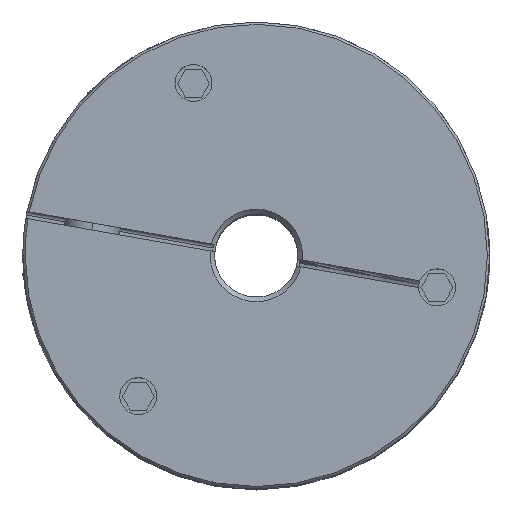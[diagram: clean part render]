
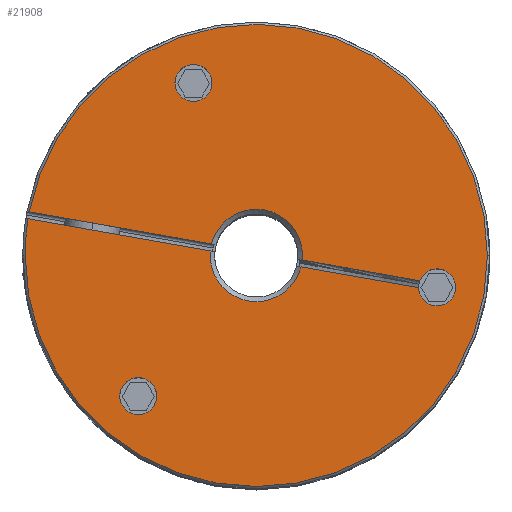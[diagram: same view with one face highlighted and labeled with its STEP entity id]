
A CAD part, top view. The second image highlights one B-rep face of the part: STEP entity #21908.
In plain terms, the highlighted planar face has unit normal (0, 0, 1).
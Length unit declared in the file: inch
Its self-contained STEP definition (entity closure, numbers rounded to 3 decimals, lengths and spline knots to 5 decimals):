
#4773=CARTESIAN_POINT('',(0.38099,-0.09766,
5.27605));
#4800=DIRECTION('',(-0.985,0.174,0.));
#4801=VECTOR('',#4800,1.01668);
#4802=CARTESIAN_POINT('',(1.38222,-0.27424,
5.27605));
#4803=LINE('',#4802,#4801);
#4807=CARTESIAN_POINT('',(-0.39141,0.03857,
5.27605));
#4816=DIRECTION('',(-0.985,0.174,0.));
#4817=VECTOR('',#4816,1.5758);
#4818=CARTESIAN_POINT('',(-0.39141,0.03857,
5.27605));
#4819=LINE('',#4818,#4817);
#4983=CARTESIAN_POINT('',(-0.38099,0.09766,
5.27605));
#5003=DIRECTION('',(0.985,-0.174,0.));
#5004=VECTOR('',#5003,1.5758);
#5005=CARTESIAN_POINT('',(-1.93285,0.37131,
5.27605));
#5006=LINE('',#5005,#5004);
#5010=CARTESIAN_POINT('',(0.39141,-0.03857,
5.27605));
#5019=DIRECTION('',(0.985,-0.174,0.));
#5020=VECTOR('',#5019,1.01667);
#5021=CARTESIAN_POINT('',(0.39141,-0.03857,
5.27605));
#5022=LINE('',#5021,#5020);
#5056=CARTESIAN_POINT('',(0.,0.,
5.27605));
#5057=DIRECTION('',(0.,0.,-1.));
#5058=DIRECTION('',(-0.969,0.248,0.));
#5059=AXIS2_PLACEMENT_3D('',#5056,#5057,#5058);
#5088=CARTESIAN_POINT('',(0.,0.,
5.27605));
#5089=DIRECTION('',(0.,0.,-1.));
#5090=DIRECTION('',(0.969,-0.248,0.));
#5091=AXIS2_PLACEMENT_3D('',#5088,#5089,#5090);
#5096=CARTESIAN_POINT('',(-1.00498,-1.19764,
5.27605));
#5097=DIRECTION('',(0.,0.,-1.));
#5098=DIRECTION('',(-0.174,-0.985,0.));
#5099=AXIS2_PLACEMENT_3D('',#5096,#5097,#5098);
#5104=CARTESIAN_POINT('',(-1.00498,-1.19764,
5.27605));
#5105=DIRECTION('',(0.,0.,1.));
#5106=DIRECTION('',(-0.174,-0.985,0.));
#5107=AXIS2_PLACEMENT_3D('',#5104,#5105,#5106);
#5112=CARTESIAN_POINT('',(-1.00498,-1.19764,
5.27605));
#5113=DIRECTION('',(0.,0.,-1.));
#5114=DIRECTION('',(-1.,0.,0.));
#5115=AXIS2_PLACEMENT_3D('',#5112,#5113,#5114);
#5120=CARTESIAN_POINT('',(-0.5347,1.46916,
5.27605));
#5121=DIRECTION('',(0.,0.,-1.));
#5122=DIRECTION('',(-0.174,-0.985,0.));
#5123=AXIS2_PLACEMENT_3D('',#5120,#5121,#5122);
#5128=CARTESIAN_POINT('',(-0.5347,1.46916,
5.27605));
#5129=DIRECTION('',(0.,0.,1.));
#5130=DIRECTION('',(-0.174,-0.985,0.));
#5131=AXIS2_PLACEMENT_3D('',#5128,#5129,#5130);
#5136=CARTESIAN_POINT('',(-0.5347,1.46916,
5.27605));
#5137=DIRECTION('',(0.,0.,-1.));
#5138=DIRECTION('',(-1.,0.,0.));
#5139=AXIS2_PLACEMENT_3D('',#5136,#5137,#5138);
#5144=CARTESIAN_POINT('',(0.,0.,5.27605));
#5145=DIRECTION('',(0.,0.,1.));
#5146=DIRECTION('',(1.,0.,0.));
#5147=AXIS2_PLACEMENT_3D('',#5144,#5145,#5146);
#5152=CARTESIAN_POINT('',(0.,0.,5.27605));
#5153=DIRECTION('',(0.,0.,1.));
#5154=DIRECTION('',(-1.,0.,0.));
#5155=AXIS2_PLACEMENT_3D('',#5152,#5153,#5154);
#5160=CARTESIAN_POINT('',(0.,0.,5.27605));
#5161=DIRECTION('',(0.,0.,1.));
#5162=DIRECTION('',(-0.987,0.159,0.));
#5163=AXIS2_PLACEMENT_3D('',#5160,#5161,#5162);
#5168=CARTESIAN_POINT('',(1.53968,-0.27152,
5.27605));
#5169=DIRECTION('',(0.,0.,-1.));
#5170=DIRECTION('',(-0.174,-0.985,0.));
#5171=AXIS2_PLACEMENT_3D('',#5168,#5169,#5170);
#5176=CARTESIAN_POINT('',(1.53968,-0.27152,
5.27605));
#5177=DIRECTION('',(0.,0.,-1.));
#5178=DIRECTION('',(1.,0.,0.));
#5179=AXIS2_PLACEMENT_3D('',#5176,#5177,#5178);
#5184=CARTESIAN_POINT('',(1.53968,-0.27152,
5.27605));
#5185=DIRECTION('',(0.,0.,-1.));
#5186=DIRECTION('',(0.174,0.985,0.));
#5187=AXIS2_PLACEMENT_3D('',#5184,#5185,#5186);
#5192=CARTESIAN_POINT('',(1.53968,-0.27152,
5.27605));
#5193=DIRECTION('',(0.,0.,-1.));
#5194=DIRECTION('',(-0.934,0.358,0.));
#5195=AXIS2_PLACEMENT_3D('',#5192,#5193,#5194);
#15796=CARTESIAN_POINT('',(-1.03233,-1.35273,
5.27605));
#15798=VERTEX_POINT('',#15796);
#16456=CARTESIAN_POINT('',(-1.96819,0.,5.27605));
#16457=CARTESIAN_POINT('',(1.96819,0.,5.27605));
#16458=VERTEX_POINT('',#16456);
#16459=VERTEX_POINT('',#16457);
#16817=CARTESIAN_POINT('',(1.69716,-0.27152,
5.27605));
#16818=VERTEX_POINT('',#16817);
#16900=CARTESIAN_POINT('',(1.38222,-0.27424,
5.27605));
#16902=VERTEX_POINT('',#16900);
#16905=CARTESIAN_POINT('',(-0.69218,1.46916,
5.27605));
#16906=VERTEX_POINT('',#16905);
#17069=CARTESIAN_POINT('',(1.51232,-0.42661,
5.27605));
#17070=VERTEX_POINT('',#17069);
#17110=CARTESIAN_POINT('',(-1.94326,0.31227,
5.27605));
#17111=VERTEX_POINT('',#17110);
#17405=CARTESIAN_POINT('',(-0.50734,1.62425,
5.27605));
#17406=VERTEX_POINT('',#17405);
#17409=CARTESIAN_POINT('',(1.39263,-0.21515,
5.27605));
#17410=CARTESIAN_POINT('',(1.56703,-0.11643,
5.27605));
#17411=VERTEX_POINT('',#17409);
#17412=VERTEX_POINT('',#17410);
#17620=CARTESIAN_POINT('',(-0.56205,1.31407,
5.27605));
#17621=VERTEX_POINT('',#17620);
#17749=CARTESIAN_POINT('',(-1.93284,0.37136,
5.27605));
#17750=VERTEX_POINT('',#17749);
#17894=CARTESIAN_POINT('',(-1.16246,-1.19764,
5.27605));
#17895=VERTEX_POINT('',#17894);
#18135=CARTESIAN_POINT('',(-0.97763,-1.04255,
5.27605));
#18136=VERTEX_POINT('',#18135);
#18302=VERTEX_POINT('',#4983);
#18303=VERTEX_POINT('',#5010);
#18306=VERTEX_POINT('',#4773);
#18307=VERTEX_POINT('',#4807);
#21865=CARTESIAN_POINT('',(0.,0.,5.27605));
#21866=DIRECTION('',(0.,0.,1.));
#21867=DIRECTION('',(0.,-1.,0.));
#21868=AXIS2_PLACEMENT_3D('',#21865,#21866,#21867);
#21869=PLANE('',#21868);
#21870=ORIENTED_EDGE('',*,*,#21821,.F.);
#21871=ORIENTED_EDGE('',*,*,#21767,.F.);
#21873=ORIENTED_EDGE('',*,*,#21872,.F.);
#21875=ORIENTED_EDGE('',*,*,#21874,.F.);
#21877=ORIENTED_EDGE('',*,*,#21876,.F.);
#21878=ORIENTED_EDGE('',*,*,#21610,.F.);
#21879=ORIENTED_EDGE('',*,*,#21859,.F.);
#21880=ORIENTED_EDGE('',*,*,#21598,.F.);
#21882=ORIENTED_EDGE('',*,*,#21881,.F.);
#21884=ORIENTED_EDGE('',*,*,#21883,.F.);
#21886=ORIENTED_EDGE('',*,*,#21885,.F.);
#21888=ORIENTED_EDGE('',*,*,#21887,.F.);
#21889=ORIENTED_EDGE('',*,*,#21785,.F.);
#21890=EDGE_LOOP('',(#21870,#21871,#21873,#21875,#21877,#21878,#21879,#21880,
#21882,#21884,#21886,#21888,#21889));
#21891=FACE_OUTER_BOUND('',#21890,.F.);
#21893=ORIENTED_EDGE('',*,*,#21892,.F.);
#21895=ORIENTED_EDGE('',*,*,#21894,.T.);
#21897=ORIENTED_EDGE('',*,*,#21896,.F.);
#21898=EDGE_LOOP('',(#21893,#21895,#21897));
#21899=FACE_BOUND('',#21898,.F.);
#21901=ORIENTED_EDGE('',*,*,#21900,.F.);
#21903=ORIENTED_EDGE('',*,*,#21902,.T.);
#21905=ORIENTED_EDGE('',*,*,#21904,.F.);
#21906=EDGE_LOOP('',(#21901,#21903,#21905));
#21907=FACE_BOUND('',#21906,.F.);
#5060=CIRCLE('',#5059,0.39331);
#5092=CIRCLE('',#5091,0.39331);
#5100=CIRCLE('',#5099,0.15748);
#5108=CIRCLE('',#5107,0.15748);
#5116=CIRCLE('',#5115,0.15748);
#5124=CIRCLE('',#5123,0.15748);
#5132=CIRCLE('',#5131,0.15748);
#5140=CIRCLE('',#5139,0.15748);
#5148=CIRCLE('',#5147,1.96819);
#5156=CIRCLE('',#5155,1.96819);
#5164=CIRCLE('',#5163,1.96819);
#5172=CIRCLE('',#5171,0.15748);
#5180=CIRCLE('',#5179,0.15748);
#5188=CIRCLE('',#5187,0.15748);
#5196=CIRCLE('',#5195,0.15748);
#21598=EDGE_CURVE('',#16902,#18306,#4803,.T.);
#21610=EDGE_CURVE('',#18307,#17111,#4819,.T.);
#21767=EDGE_CURVE('',#17750,#18302,#5006,.T.);
#21785=EDGE_CURVE('',#18303,#17411,#5022,.T.);
#21821=EDGE_CURVE('',#18302,#18303,#5060,.T.);
#21859=EDGE_CURVE('',#18306,#18307,#5092,.T.);
#21872=EDGE_CURVE('',#16459,#17750,#5148,.T.);
#21874=EDGE_CURVE('',#16458,#16459,#5156,.T.);
#21876=EDGE_CURVE('',#17111,#16458,#5164,.T.);
#21881=EDGE_CURVE('',#17070,#16902,#5172,.T.);
#21883=EDGE_CURVE('',#16818,#17070,#5180,.T.);
#21885=EDGE_CURVE('',#17412,#16818,#5188,.T.);
#21887=EDGE_CURVE('',#17411,#17412,#5196,.T.);
#21892=EDGE_CURVE('',#17621,#16906,#5124,.T.);
#21894=EDGE_CURVE('',#17621,#17406,#5132,.T.);
#21896=EDGE_CURVE('',#16906,#17406,#5140,.T.);
#21900=EDGE_CURVE('',#15798,#17895,#5100,.T.);
#21902=EDGE_CURVE('',#15798,#18136,#5108,.T.);
#21904=EDGE_CURVE('',#17895,#18136,#5116,.T.);
#21908=ADVANCED_FACE('',(#21891,#21899,#21907),#21869,.T.);
